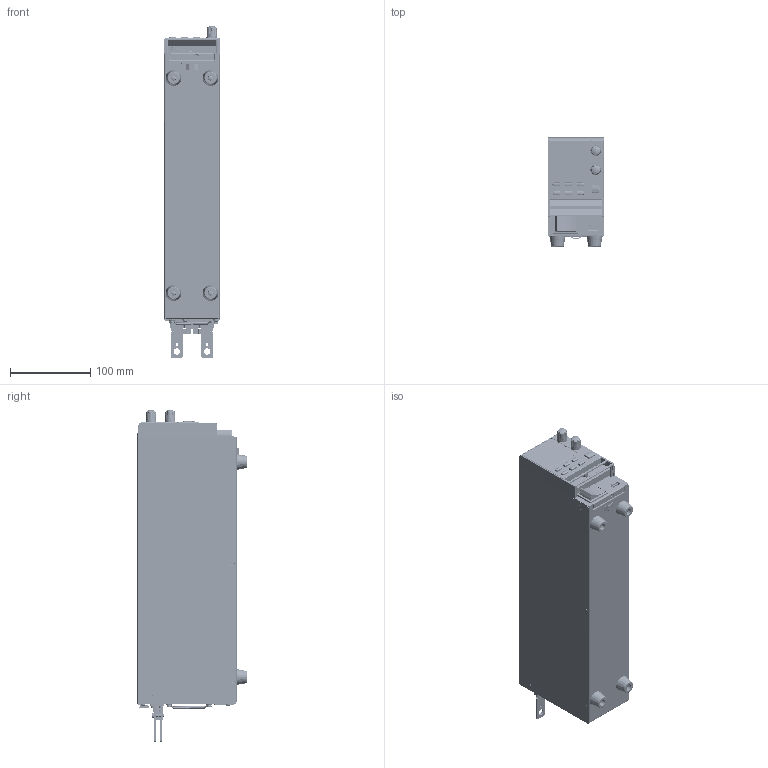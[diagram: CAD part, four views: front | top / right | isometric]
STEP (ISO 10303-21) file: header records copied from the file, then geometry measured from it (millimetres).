
FILE_DESCRIPTION((''),'2;1');
FILE_NAME('2260B-30-36','2018-02-12T',('jpeters'),('Keithley Instruments'),'CREO PARAMETRIC BY PTC INC, 2016050','CREO PARAMETRIC BY PTC INC, 2016050','');
FILE_SCHEMA(('CONFIG_CONTROL_DESIGN'));
Products named in the file (1): 2260B-30-36
Bounding box: 70.8 x 136.4 x 413.8 mm (x, y, z)
Volume: 352926.6 mm3; surface area: 503732.9 mm2
Topology: 12 solids, 79 shells, 12853 faces, 33821 edges, 21726 vertices
Faces by surface type: plane 8866, cylinder 2289, cone 806, bspline 597, sphere 140, torus 139, revolution 16
Entity records: 426348 total; most frequent: CARTESIAN_POINT 107865, ORIENTED_EDGE 67393, DIRECTION 63243, EDGE_CURVE 33703, VECTOR 24597, LINE 24597, VERTEX_POINT 21726, AXIS2_PLACEMENT_3D 19315
